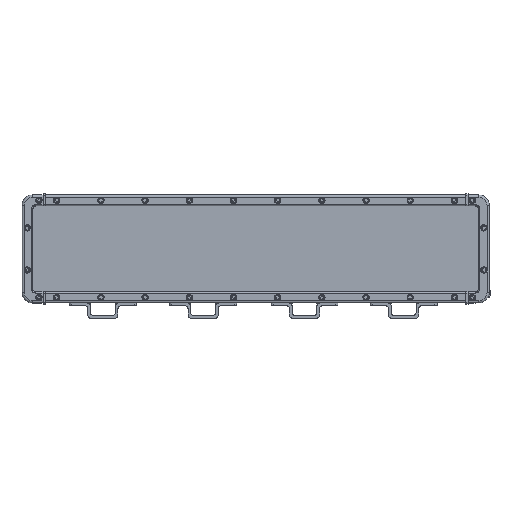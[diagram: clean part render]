
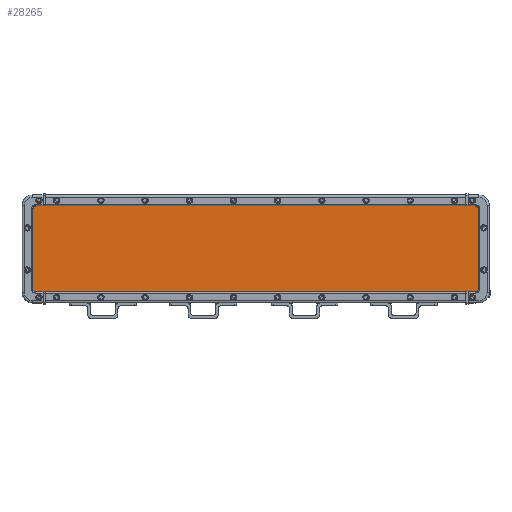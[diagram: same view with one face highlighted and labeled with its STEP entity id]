
A CAD part, top view. The second image highlights one B-rep face of the part: STEP entity #28265.
In plain terms, the highlighted planar face has unit normal (0, 0, 1).
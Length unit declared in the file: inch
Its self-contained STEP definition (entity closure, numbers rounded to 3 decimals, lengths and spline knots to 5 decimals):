
#190 = CARTESIAN_POINT ( 'NONE',  ( -15.43169, -2.56915, 9.38963 ) ) ;
#274 = AXIS2_PLACEMENT_3D ( 'NONE', #7470, #27542, #10352 ) ;
#502 = DIRECTION ( 'NONE',  ( 0., -1., 0. ) ) ;
#628 = DIRECTION ( 'NONE',  ( 0., 0., 1. ) ) ;
#1139 = DIRECTION ( 'NONE',  ( 0., 0., 1. ) ) ;
#1596 = DIRECTION ( 'NONE',  ( 1., 0., 0. ) ) ;
#1779 = ORIENTED_EDGE ( 'NONE', *, *, #15311, .F. ) ;
#2713 = FACE_OUTER_BOUND ( 'NONE', #7709, .T. ) ;
#3344 = CARTESIAN_POINT ( 'NONE',  ( -15.43169, -2.76915, 9.38963 ) ) ;
#3911 = CARTESIAN_POINT ( 'NONE',  ( 5.76831, 1.13085, 9.38963 ) ) ;
#4319 = DIRECTION ( 'NONE',  ( 0., 0., 1. ) ) ;
#5099 = CIRCLE ( 'NONE', #12603, 0.2 ) ;
#6728 = ORIENTED_EDGE ( 'NONE', *, *, #26146, .T. ) ;
#7366 = ORIENTED_EDGE ( 'NONE', *, *, #13379, .F. ) ;
#7451 = ORIENTED_EDGE ( 'NONE', *, *, #24286, .T. ) ;
#7470 = CARTESIAN_POINT ( 'NONE',  ( 5.56831, -2.56915, 9.38963 ) ) ;
#7709 = EDGE_LOOP ( 'NONE', ( #1779, #6728, #7366, #7451, #8102, #15714, #22161, #10519 ) ) ;
#8102 = ORIENTED_EDGE ( 'NONE', *, *, #13756, .F. ) ;
#8488 = CARTESIAN_POINT ( 'NONE',  ( 5.76831, 1.33085, 9.38963 ) ) ;
#8612 = VECTOR ( 'NONE', #29835, 39.37008 ) ;
#9633 = CARTESIAN_POINT ( 'NONE',  ( 5.76831, -2.56915, 9.38963 ) ) ;
#9764 = CARTESIAN_POINT ( 'NONE',  ( 5.56831, -2.76915, 9.38963 ) ) ;
#10352 = DIRECTION ( 'NONE',  ( 1., 0., 0. ) ) ;
#10495 = VECTOR ( 'NONE', #502, 39.37008 ) ;
#10519 = ORIENTED_EDGE ( 'NONE', *, *, #12081, .T. ) ;
#10632 = AXIS2_PLACEMENT_3D ( 'NONE', #17751, #628, #20605 ) ;
#11047 = CARTESIAN_POINT ( 'NONE',  ( -15.43169, 1.13085, 9.38963 ) ) ;
#11709 = VERTEX_POINT ( 'NONE', #27688 ) ;
#12081 = EDGE_CURVE ( 'NONE', #28773, #28391, #34743, .T. ) ;
#12603 = AXIS2_PLACEMENT_3D ( 'NONE', #35830, #18731, #1596 ) ;
#13379 = EDGE_CURVE ( 'NONE', #13520, #20090, #22109, .T. ) ;
#13509 = CARTESIAN_POINT ( 'NONE',  ( 5.56831, 1.33085, 9.38963 ) ) ;
#13520 = VERTEX_POINT ( 'NONE', #190 ) ;
#13756 = EDGE_CURVE ( 'NONE', #32935, #11709, #16250, .T. ) ;
#15311 = EDGE_CURVE ( 'NONE', #25167, #28391, #33592, .T. ) ;
#15714 = ORIENTED_EDGE ( 'NONE', *, *, #20998, .T. ) ;
#16250 = LINE ( 'NONE', #26832, #8612 ) ;
#17619 = CARTESIAN_POINT ( 'NONE',  ( 5.76831, -2.76915, 9.38963 ) ) ;
#17710 = CIRCLE ( 'NONE', #274, 0.2 ) ;
#17751 = CARTESIAN_POINT ( 'NONE',  ( -15.23169, -2.56915, 9.38963 ) ) ;
#18138 = LINE ( 'NONE', #17619, #10495 ) ;
#18258 = CARTESIAN_POINT ( 'NONE',  ( 5.56831, 1.13085, 9.38963 ) ) ;
#18731 = DIRECTION ( 'NONE',  ( 0., 0., 1. ) ) ;
#19554 = AXIS2_PLACEMENT_3D ( 'NONE', #18258, #1139, #21115 ) ;
#20090 = VERTEX_POINT ( 'NONE', #11047 ) ;
#20496 = DIRECTION ( 'NONE',  ( 0., 1., 0. ) ) ;
#20605 = DIRECTION ( 'NONE',  ( 1., 0., 0. ) ) ;
#20998 = EDGE_CURVE ( 'NONE', #32935, #30748, #17710, .T. ) ;
#21115 = DIRECTION ( 'NONE',  ( 1., 0., 0. ) ) ;
#21237 = VECTOR ( 'NONE', #20496, 39.37008 ) ;
#21475 = CARTESIAN_POINT ( 'NONE',  ( 5.76831, 1.33085, 9.38963 ) ) ;
#22109 = LINE ( 'NONE', #3344, #21237 ) ;
#22161 = ORIENTED_EDGE ( 'NONE', *, *, #25924, .F. ) ;
#24286 = EDGE_CURVE ( 'NONE', #13520, #11709, #26739, .T. ) ;
#24351 = DIRECTION ( 'NONE',  ( 1., 0., 0. ) ) ;
#24566 = CARTESIAN_POINT ( 'NONE',  ( -15.23169, 1.33085, 9.38963 ) ) ;
#25167 = VERTEX_POINT ( 'NONE', #24566 ) ;
#25924 = EDGE_CURVE ( 'NONE', #28773, #30748, #18138, .T. ) ;
#26006 = VECTOR ( 'NONE', #31434, 39.37008 ) ;
#26146 = EDGE_CURVE ( 'NONE', #25167, #20090, #5099, .T. ) ;
#26739 = CIRCLE ( 'NONE', #10632, 0.2 ) ;
#26832 = CARTESIAN_POINT ( 'NONE',  ( 5.76831, -2.76915, 9.38963 ) ) ;
#26941 = AXIS2_PLACEMENT_3D ( 'NONE', #21475, #4319, #24351 ) ;
#27542 = DIRECTION ( 'NONE',  ( 0., 0., 1. ) ) ;
#27688 = CARTESIAN_POINT ( 'NONE',  ( -15.23169, -2.76915, 9.38963 ) ) ;
#28265 = ADVANCED_FACE ( 'NONE', ( #2713 ), #32850, .T. ) ;
#28391 = VERTEX_POINT ( 'NONE', #13509 ) ;
#28773 = VERTEX_POINT ( 'NONE', #3911 ) ;
#29835 = DIRECTION ( 'NONE',  ( -1., 0., 0. ) ) ;
#30748 = VERTEX_POINT ( 'NONE', #9633 ) ;
#31434 = DIRECTION ( 'NONE',  ( 1., 0., 0. ) ) ;
#32850 = PLANE ( 'NONE',  #26941 ) ;
#32935 = VERTEX_POINT ( 'NONE', #9764 ) ;
#33592 = LINE ( 'NONE', #8488, #26006 ) ;
#34743 = CIRCLE ( 'NONE', #19554, 0.2 ) ;
#35830 = CARTESIAN_POINT ( 'NONE',  ( -15.23169, 1.13085, 9.38963 ) ) ;
